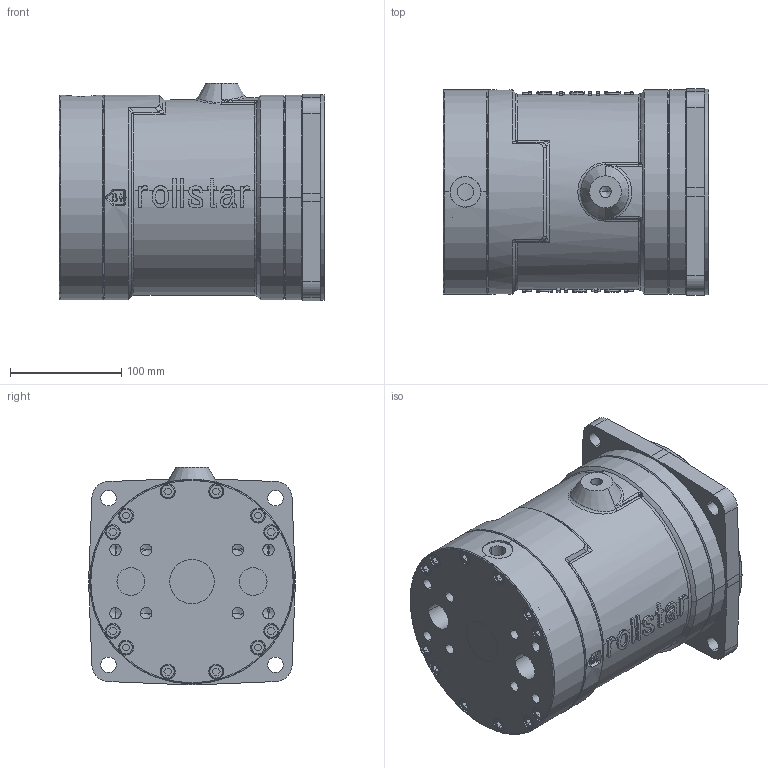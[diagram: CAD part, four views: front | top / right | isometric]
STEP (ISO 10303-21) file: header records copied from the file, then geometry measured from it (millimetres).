
FILE_DESCRIPTION(('Creo Elements/Direct Modeling STEP Export'),'2;1');
FILE_NAME('AM80_110 axial.stp','2017-07-10T14:55:14',(''),(''),'PTC Creo Elements/Direct Modeling STEP processor for AP214 (Solid Model)','PTC Creo Elements/Direct Modeling 19.0C 15-Aug-2015 (C) Parametric Technology GmbH','');
FILE_SCHEMA(('AUTOMOTIVE_DESIGN { 1 0 10303 214 1 1 1 1 }'));
Products named in the file (2): AM80_110
Assembly tree (1 placements, depth 2):
  AM80_110
    AM80_110
Bounding box: 239 x 185.98 x 195.99 mm (x, y, z)
Volume: 6068851.8 mm3; surface area: 259008.7 mm2
Topology: 1 solids, 1 shells, 959 faces, 2390 edges, 1524 vertices
Faces by surface type: plane 472, cylinder 260, cone 97, extrusion 77, bspline 44, torus 9
Entity records: 70791 total; most frequent: CARTESIAN_POINT 42009, ORIENTED_EDGE 4736, DIRECTION 3658, EDGE_CURVE 2368, VERTEX_POINT 1524, VECTOR 1404, LINE 1306, AXIS2_PLACEMENT_3D 1127
